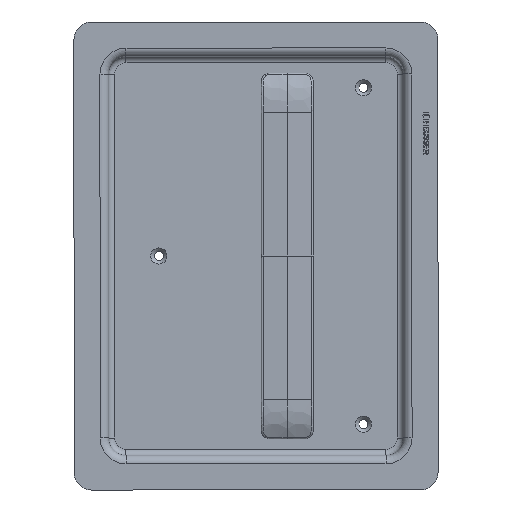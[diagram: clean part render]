
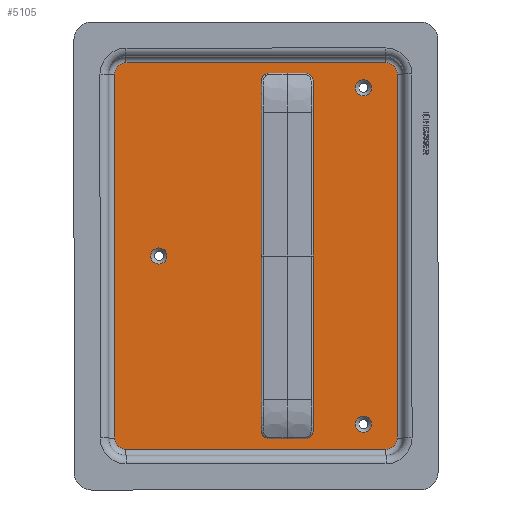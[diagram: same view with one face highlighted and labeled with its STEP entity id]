
A CAD part, front view. The second image highlights one B-rep face of the part: STEP entity #5105.
In plain terms, the highlighted planar face has unit normal (0, -1, 0) as drawn and (0, 0, -1) by its records, which use the part's own axes.
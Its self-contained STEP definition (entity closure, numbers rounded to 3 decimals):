
#388=FACE_BOUND('',#936,.T.);
#389=FACE_BOUND('',#937,.T.);
#390=FACE_BOUND('',#938,.T.);
#391=FACE_BOUND('',#939,.T.);
#392=FACE_BOUND('',#940,.T.);
#393=FACE_BOUND('',#941,.T.);
#394=FACE_BOUND('',#942,.T.);
#423=PLANE('',#5516);
#631=FACE_OUTER_BOUND('',#935,.T.);
#935=EDGE_LOOP('',(#3522,#3523,#3524,#3525,#3526,#3527,#3528,#3529));
#936=EDGE_LOOP('',(#3530));
#937=EDGE_LOOP('',(#3531));
#938=EDGE_LOOP('',(#3532));
#939=EDGE_LOOP('',(#3533));
#940=EDGE_LOOP('',(#3534));
#941=EDGE_LOOP('',(#3535));
#942=EDGE_LOOP('',(#3536));
#1274=LINE('',#7067,#1691);
#1275=LINE('',#7071,#1692);
#1276=LINE('',#7075,#1693);
#1277=LINE('',#7079,#1694);
#1691=VECTOR('',#5912,10.);
#1692=VECTOR('',#5915,10.);
#1693=VECTOR('',#5918,10.);
#1694=VECTOR('',#5921,10.);
#2103=CIRCLE('',#5502,2.75);
#2105=CIRCLE('',#5505,2.75);
#2107=CIRCLE('',#5508,2.75);
#2109=CIRCLE('',#5511,2.75);
#2111=CIRCLE('',#5514,4.65);
#2113=CIRCLE('',#5517,6.5);
#2114=CIRCLE('',#5518,6.5);
#2115=CIRCLE('',#5519,6.5);
#2116=CIRCLE('',#5520,6.5);
#2117=CIRCLE('',#5521,4.65);
#2118=CIRCLE('',#5522,4.65);
#2231=VERTEX_POINT('',#7035);
#2233=VERTEX_POINT('',#7041);
#2235=VERTEX_POINT('',#7047);
#2237=VERTEX_POINT('',#7053);
#2239=VERTEX_POINT('',#7059);
#2241=VERTEX_POINT('',#7065);
#2242=VERTEX_POINT('',#7066);
#2243=VERTEX_POINT('',#7068);
#2244=VERTEX_POINT('',#7070);
#2245=VERTEX_POINT('',#7072);
#2246=VERTEX_POINT('',#7074);
#2247=VERTEX_POINT('',#7076);
#2248=VERTEX_POINT('',#7078);
#2249=VERTEX_POINT('',#7081);
#2250=VERTEX_POINT('',#7083);
#2728=EDGE_CURVE('',#2231,#2231,#2103,.T.);
#2731=EDGE_CURVE('',#2233,#2233,#2105,.T.);
#2734=EDGE_CURVE('',#2235,#2235,#2107,.T.);
#2737=EDGE_CURVE('',#2237,#2237,#2109,.T.);
#2740=EDGE_CURVE('',#2239,#2239,#2111,.T.);
#2743=EDGE_CURVE('',#2241,#2242,#1274,.T.);
#2744=EDGE_CURVE('',#2242,#2243,#2113,.T.);
#2745=EDGE_CURVE('',#2243,#2244,#1275,.T.);
#2746=EDGE_CURVE('',#2244,#2245,#2114,.T.);
#2747=EDGE_CURVE('',#2245,#2246,#1276,.T.);
#2748=EDGE_CURVE('',#2246,#2247,#2115,.T.);
#2749=EDGE_CURVE('',#2247,#2248,#1277,.T.);
#2750=EDGE_CURVE('',#2248,#2241,#2116,.T.);
#2751=EDGE_CURVE('',#2249,#2249,#2117,.T.);
#2752=EDGE_CURVE('',#2250,#2250,#2118,.T.);
#3522=ORIENTED_EDGE('',*,*,#2743,.T.);
#3523=ORIENTED_EDGE('',*,*,#2744,.T.);
#3524=ORIENTED_EDGE('',*,*,#2745,.T.);
#3525=ORIENTED_EDGE('',*,*,#2746,.T.);
#3526=ORIENTED_EDGE('',*,*,#2747,.T.);
#3527=ORIENTED_EDGE('',*,*,#2748,.T.);
#3528=ORIENTED_EDGE('',*,*,#2749,.T.);
#3529=ORIENTED_EDGE('',*,*,#2750,.T.);
#3530=ORIENTED_EDGE('',*,*,#2728,.T.);
#3531=ORIENTED_EDGE('',*,*,#2731,.T.);
#3532=ORIENTED_EDGE('',*,*,#2734,.T.);
#3533=ORIENTED_EDGE('',*,*,#2737,.T.);
#3534=ORIENTED_EDGE('',*,*,#2751,.F.);
#3535=ORIENTED_EDGE('',*,*,#2752,.F.);
#3536=ORIENTED_EDGE('',*,*,#2740,.F.);
#5105=ADVANCED_FACE('',(#631,#388,#389,#390,#391,#392,#393,#394),#423,.F.);
#5502=AXIS2_PLACEMENT_3D('',#7036,#5877,#5878);
#5505=AXIS2_PLACEMENT_3D('',#7042,#5884,#5885);
#5508=AXIS2_PLACEMENT_3D('',#7048,#5891,#5892);
#5511=AXIS2_PLACEMENT_3D('',#7054,#5898,#5899);
#5514=AXIS2_PLACEMENT_3D('',#7060,#5905,#5906);
#5516=AXIS2_PLACEMENT_3D('',#7064,#5910,#5911);
#5517=AXIS2_PLACEMENT_3D('',#7069,#5913,#5914);
#5518=AXIS2_PLACEMENT_3D('',#7073,#5916,#5917);
#5519=AXIS2_PLACEMENT_3D('',#7077,#5919,#5920);
#5520=AXIS2_PLACEMENT_3D('',#7080,#5922,#5923);
#5521=AXIS2_PLACEMENT_3D('',#7082,#5924,#5925);
#5522=AXIS2_PLACEMENT_3D('',#7084,#5926,#5927);
#5877=DIRECTION('center_axis',(0.,0.,1.));
#5878=DIRECTION('ref_axis',(1.,0.,0.));
#5884=DIRECTION('center_axis',(0.,0.,1.));
#5885=DIRECTION('ref_axis',(1.,0.,0.));
#5891=DIRECTION('center_axis',(0.,0.,1.));
#5892=DIRECTION('ref_axis',(1.,0.,0.));
#5898=DIRECTION('center_axis',(0.,0.,1.));
#5899=DIRECTION('ref_axis',(1.,0.,0.));
#5905=DIRECTION('center_axis',(0.,0.,-1.));
#5906=DIRECTION('ref_axis',(1.,0.,0.));
#5910=DIRECTION('center_axis',(0.,0.,1.));
#5911=DIRECTION('ref_axis',(1.,0.,0.));
#5912=DIRECTION('',(-1.,0.,0.));
#5913=DIRECTION('center_axis',(0.,0.,-1.));
#5914=DIRECTION('ref_axis',(-0.707,-0.707,0.));
#5915=DIRECTION('',(0.,1.,0.));
#5916=DIRECTION('center_axis',(0.,0.,-1.));
#5917=DIRECTION('ref_axis',(-0.707,0.707,0.));
#5918=DIRECTION('',(1.,0.,0.));
#5919=DIRECTION('center_axis',(0.,0.,-1.));
#5920=DIRECTION('ref_axis',(0.707,0.707,0.));
#5921=DIRECTION('',(0.,-1.,0.));
#5922=DIRECTION('center_axis',(0.,0.,-1.));
#5923=DIRECTION('ref_axis',(0.707,-0.707,0.));
#5924=DIRECTION('center_axis',(0.,0.,-1.));
#5925=DIRECTION('ref_axis',(1.,0.,0.));
#5926=DIRECTION('center_axis',(0.,0.,-1.));
#5927=DIRECTION('ref_axis',(1.,0.,0.));
#7035=CARTESIAN_POINT('',(-11.193,-99.57,-3.028));
#7036=CARTESIAN_POINT('Origin',(-8.443,-99.57,-3.028));
#7041=CARTESIAN_POINT('',(-11.193,96.43,-3.028));
#7042=CARTESIAN_POINT('Origin',(-8.443,96.43,-3.028));
#7047=CARTESIAN_POINT('',(-26.193,96.43,-3.028));
#7048=CARTESIAN_POINT('Origin',(-23.443,96.43,-3.028));
#7053=CARTESIAN_POINT('',(-26.193,-99.57,-3.028));
#7054=CARTESIAN_POINT('Origin',(-23.443,-99.57,-3.028));
#7059=CARTESIAN_POINT('',(-64.593,-98.57,-3.028));
#7060=CARTESIAN_POINT('Origin',(-59.943,-98.57,-3.028));
#7064=CARTESIAN_POINT('Origin',(2.057,-1.57,-3.028));
#7065=CARTESIAN_POINT('',(77.057,-113.07,-3.028));
#7066=CARTESIAN_POINT('',(-72.943,-113.07,-3.028));
#7067=CARTESIAN_POINT('',(39.557,-113.07,-3.028));
#7068=CARTESIAN_POINT('',(-79.443,-106.57,-3.028));
#7069=CARTESIAN_POINT('Origin',(-72.943,-106.57,-3.028));
#7070=CARTESIAN_POINT('',(-79.443,103.43,-3.028));
#7071=CARTESIAN_POINT('',(-79.443,-54.07,-3.028));
#7072=CARTESIAN_POINT('',(-72.943,109.93,-3.028));
#7073=CARTESIAN_POINT('Origin',(-72.943,103.43,-3.028));
#7074=CARTESIAN_POINT('',(77.057,109.93,-3.028));
#7075=CARTESIAN_POINT('',(-35.443,109.93,-3.028));
#7076=CARTESIAN_POINT('',(83.557,103.43,-3.028));
#7077=CARTESIAN_POINT('Origin',(77.057,103.43,-3.028));
#7078=CARTESIAN_POINT('',(83.557,-106.57,-3.028));
#7079=CARTESIAN_POINT('',(83.557,50.93,-3.028));
#7080=CARTESIAN_POINT('Origin',(77.057,-106.57,-3.028));
#7081=CARTESIAN_POINT('',(-64.593,95.43,-3.028));
#7082=CARTESIAN_POINT('Origin',(-59.943,95.43,-3.028));
#7083=CARTESIAN_POINT('',(53.407,-1.57,-3.028));
#7084=CARTESIAN_POINT('Origin',(58.057,-1.57,-3.028));
